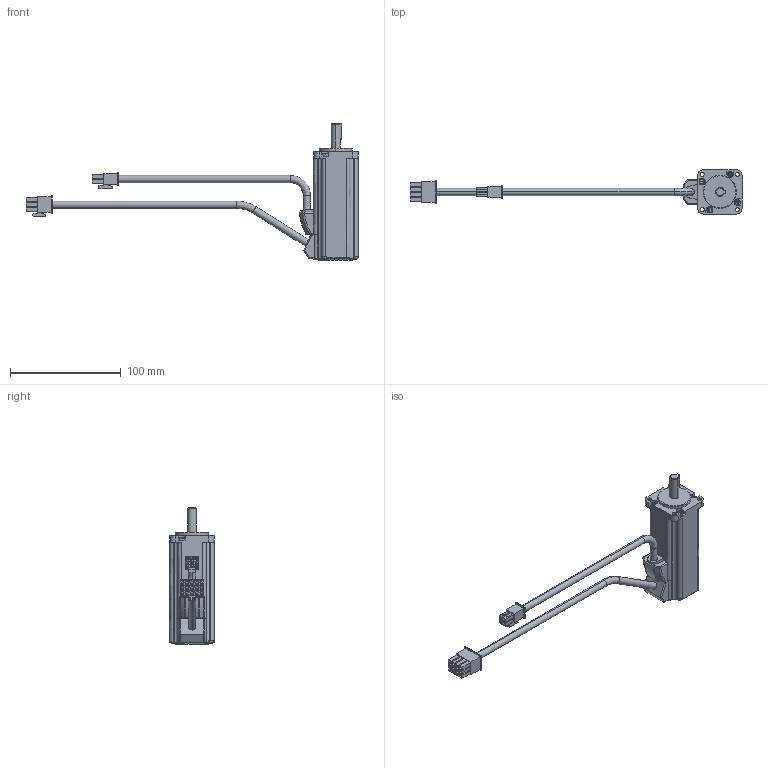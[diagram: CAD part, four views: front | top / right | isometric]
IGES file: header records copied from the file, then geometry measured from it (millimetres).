
Start section:  PTC IGES file: 10001004_rsmz-01ba_no_brake.igs
Global section: file name: 10001004_rsmz-01ba_no_brake.igs; native system: Pro/ENGINEER by Parametric Technology Corporation; preprocessor: 2004440; author: Administrator; organization: Unknown; date: 070829.201147; units: millimetre
Bounding box: 299.76 x 40 x 123 mm (x, y, z)
Volume: 166777.3 mm3; surface area: 35330.8 mm2
Topology: 1 solids, 1 shells, 492 faces, 1237 edges, 803 vertices
Faces by surface type: bspline 352, revolution 140
